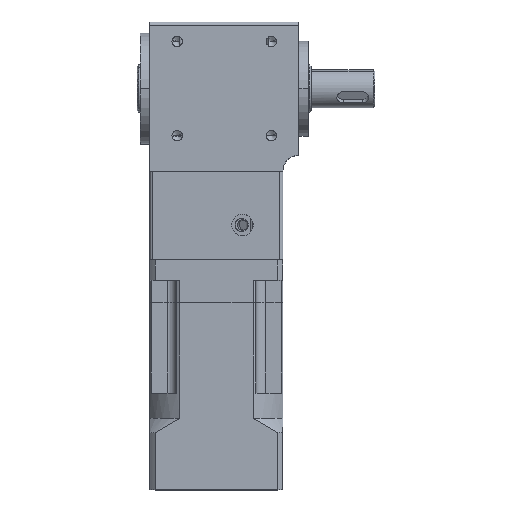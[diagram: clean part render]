
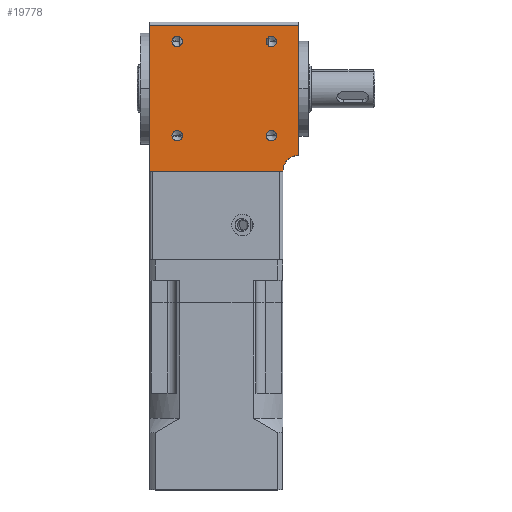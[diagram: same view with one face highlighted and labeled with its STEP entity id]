
A CAD part, top view. The second image highlights one B-rep face of the part: STEP entity #19778.
In plain terms, the highlighted planar face has unit normal (0, 0, 1).
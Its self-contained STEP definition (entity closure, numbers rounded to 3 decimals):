
#142 = AXIS2_PLACEMENT_3D ( 'NONE', #33925, #17639, #1451 ) ;
#256 = ORIENTED_EDGE ( 'NONE', *, *, #466, .F. ) ;
#294 = LINE ( 'NONE', #10357, #14650 ) ;
#448 = CARTESIAN_POINT ( 'NONE',  ( 42.999, 17.349, 21. ) ) ;
#466 = EDGE_CURVE ( 'NONE', #8199, #31534, #2141, .T. ) ;
#524 = EDGE_LOOP ( 'NONE', ( #7987, #34413 ) ) ;
#852 = EDGE_CURVE ( 'NONE', #5462, #31341, #16927, .T. ) ;
#1010 = CARTESIAN_POINT ( 'NONE',  ( 45., -23.5, 21. ) ) ;
#1108 = AXIS2_PLACEMENT_3D ( 'NONE', #22347, #6147, #25079 ) ;
#1354 = EDGE_LOOP ( 'NONE', ( #3513, #33977, #24147, #9589, #256 ) ) ;
#1451 = DIRECTION ( 'NONE',  ( 1., 0., 0. ) ) ;
#1974 = EDGE_LOOP ( 'NONE', ( #25573, #21299 ) ) ;
#2071 = EDGE_CURVE ( 'NONE', #24723, #31206, #26644, .T. ) ;
#2141 = CIRCLE ( 'NONE', #32350, 5. ) ;
#2824 = CARTESIAN_POINT ( 'NONE',  ( 53., -23.5, 21. ) ) ;
#2986 = CARTESIAN_POINT ( 'NONE',  ( 3., -23.5, 21. ) ) ;
#3010 = ORIENTED_EDGE ( 'NONE', *, *, #31087, .F. ) ;
#3513 = ORIENTED_EDGE ( 'NONE', *, *, #33900, .F. ) ;
#3796 = FACE_BOUND ( 'NONE', #15048, .T. ) ;
#4043 = EDGE_CURVE ( 'NONE', #19540, #5705, #24406, .T. ) ;
#4451 = EDGE_CURVE ( 'NONE', #5976, #6155, #9544, .T. ) ;
#4461 = CARTESIAN_POINT ( 'NONE',  ( 10.001, -12.349, 21. ) ) ;
#4583 = DIRECTION ( 'NONE',  ( 0., 0., 1. ) ) ;
#4927 = CARTESIAN_POINT ( 'NONE',  ( 13.301, -12.349, 21. ) ) ;
#5264 = EDGE_LOOP ( 'NONE', ( #19691, #14229 ) ) ;
#5344 = DIRECTION ( 'NONE',  ( 0., 1., 0. ) ) ;
#5462 = VERTEX_POINT ( 'NONE', #26515 ) ;
#5666 = AXIS2_PLACEMENT_3D ( 'NONE', #28439, #12192, #31174 ) ;
#5705 = VERTEX_POINT ( 'NONE', #24930 ) ;
#5976 = VERTEX_POINT ( 'NONE', #21227 ) ;
#6147 = DIRECTION ( 'NONE',  ( 0., 0., 1. ) ) ;
#6155 = VERTEX_POINT ( 'NONE', #448 ) ;
#6569 = LINE ( 'NONE', #14826, #27362 ) ;
#7987 = ORIENTED_EDGE ( 'NONE', *, *, #29690, .F. ) ;
#8199 = VERTEX_POINT ( 'NONE', #22382 ) ;
#8213 = PLANE ( 'NONE',  #24287 ) ;
#9544 = CIRCLE ( 'NONE', #1108, 1.65 ) ;
#9589 = ORIENTED_EDGE ( 'NONE', *, *, #12411, .F. ) ;
#9652 = DIRECTION ( 'NONE',  ( 0., 0., 1. ) ) ;
#10303 = CARTESIAN_POINT ( 'NONE',  ( 41.349, 17.349, 21. ) ) ;
#10357 = CARTESIAN_POINT ( 'NONE',  ( 50., -23.5, 21. ) ) ;
#10401 = CIRCLE ( 'NONE', #17104, 1.65 ) ;
#10951 = DIRECTION ( 'NONE',  ( -1., 0., 0. ) ) ;
#10991 = FACE_BOUND ( 'NONE', #5264, .T. ) ;
#12122 = VERTEX_POINT ( 'NONE', #31091 ) ;
#12192 = DIRECTION ( 'NONE',  ( 0., 0., 1. ) ) ;
#12342 = CARTESIAN_POINT ( 'NONE',  ( 41.349, -12.349, 21. ) ) ;
#12411 = EDGE_CURVE ( 'NONE', #31534, #12444, #16773, .T. ) ;
#12444 = VERTEX_POINT ( 'NONE', #2986 ) ;
#12814 = CARTESIAN_POINT ( 'NONE',  ( 50., -23.5, 21. ) ) ;
#13042 = DIRECTION ( 'NONE',  ( 1., 0., 0. ) ) ;
#13066 = LINE ( 'NONE', #29773, #19390 ) ;
#14229 = ORIENTED_EDGE ( 'NONE', *, *, #2071, .F. ) ;
#14253 = CARTESIAN_POINT ( 'NONE',  ( 11.651, 17.349, 21. ) ) ;
#14650 = VECTOR ( 'NONE', #26613, 1000. ) ;
#14826 = CARTESIAN_POINT ( 'NONE',  ( 53., 22.5, 21. ) ) ;
#15048 = EDGE_LOOP ( 'NONE', ( #3010, #34134 ) ) ;
#15074 = DIRECTION ( 'NONE',  ( 1., 0., 0. ) ) ;
#15554 = DIRECTION ( 'NONE',  ( 1., 0., 0. ) ) ;
#16773 = LINE ( 'NONE', #30002, #30379 ) ;
#16927 = CIRCLE ( 'NONE', #142, 1.65 ) ;
#16967 = DIRECTION ( 'NONE',  ( 1., 0., 0. ) ) ;
#17104 = AXIS2_PLACEMENT_3D ( 'NONE', #14253, #33236, #16967 ) ;
#17533 = DIRECTION ( 'NONE',  ( -1., 0., 0. ) ) ;
#17639 = DIRECTION ( 'NONE',  ( 0., 0., 1. ) ) ;
#18197 = FACE_BOUND ( 'NONE', #524, .T. ) ;
#18761 = AXIS2_PLACEMENT_3D ( 'NONE', #12342, #31348, #15074 ) ;
#19004 = DIRECTION ( 'NONE',  ( 0., 0., -1. ) ) ;
#19057 = EDGE_CURVE ( 'NONE', #31206, #24723, #26293, .T. ) ;
#19390 = VECTOR ( 'NONE', #5344, 1000. ) ;
#19417 = CIRCLE ( 'NONE', #29556, 1.65 ) ;
#19540 = VERTEX_POINT ( 'NONE', #20046 ) ;
#19691 = ORIENTED_EDGE ( 'NONE', *, *, #19057, .F. ) ;
#19778 = ADVANCED_FACE ( 'NONE', ( #18197, #3796, #10991, #32648, #24533 ), #8213, .F. ) ;
#20046 = CARTESIAN_POINT ( 'NONE',  ( 39.699, -12.349, 21. ) ) ;
#20734 = EDGE_CURVE ( 'NONE', #12444, #28143, #13066, .T. ) ;
#20756 = CARTESIAN_POINT ( 'NONE',  ( 41.349, -12.349, 21. ) ) ;
#20969 = AXIS2_PLACEMENT_3D ( 'NONE', #25881, #9652, #28639 ) ;
#21227 = CARTESIAN_POINT ( 'NONE',  ( 39.699, 17.349, 21. ) ) ;
#21299 = ORIENTED_EDGE ( 'NONE', *, *, #35133, .F. ) ;
#21573 = CARTESIAN_POINT ( 'NONE',  ( 10.001, 17.349, 21. ) ) ;
#22347 = CARTESIAN_POINT ( 'NONE',  ( 41.349, 17.349, 21. ) ) ;
#22382 = CARTESIAN_POINT ( 'NONE',  ( 50., -18.5, 21. ) ) ;
#22957 = CARTESIAN_POINT ( 'NONE',  ( 3., 22.5, 21. ) ) ;
#23481 = DIRECTION ( 'NONE',  ( 1., 0., 0. ) ) ;
#23645 = EDGE_CURVE ( 'NONE', #12122, #28143, #6569, .T. ) ;
#24147 = ORIENTED_EDGE ( 'NONE', *, *, #20734, .F. ) ;
#24287 = AXIS2_PLACEMENT_3D ( 'NONE', #2824, #19004, #10951 ) ;
#24406 = CIRCLE ( 'NONE', #18761, 1.65 ) ;
#24533 = FACE_OUTER_BOUND ( 'NONE', #1354, .T. ) ;
#24723 = VERTEX_POINT ( 'NONE', #4461 ) ;
#24930 = CARTESIAN_POINT ( 'NONE',  ( 42.999, -12.349, 21. ) ) ;
#25079 = DIRECTION ( 'NONE',  ( 1., 0., 0. ) ) ;
#25573 = ORIENTED_EDGE ( 'NONE', *, *, #852, .F. ) ;
#25881 = CARTESIAN_POINT ( 'NONE',  ( 11.651, -12.349, 21. ) ) ;
#26293 = CIRCLE ( 'NONE', #5666, 1.65 ) ;
#26515 = CARTESIAN_POINT ( 'NONE',  ( 13.301, 17.349, 21. ) ) ;
#26613 = DIRECTION ( 'NONE',  ( 0., -1., 0. ) ) ;
#26644 = CIRCLE ( 'NONE', #20969, 1.65 ) ;
#27362 = VECTOR ( 'NONE', #17533, 1000. ) ;
#28143 = VERTEX_POINT ( 'NONE', #22957 ) ;
#28439 = CARTESIAN_POINT ( 'NONE',  ( 11.651, -12.349, 21. ) ) ;
#28611 = AXIS2_PLACEMENT_3D ( 'NONE', #10303, #29298, #13042 ) ;
#28639 = DIRECTION ( 'NONE',  ( 1., 0., 0. ) ) ;
#29298 = DIRECTION ( 'NONE',  ( 0., 0., 1. ) ) ;
#29556 = AXIS2_PLACEMENT_3D ( 'NONE', #20756, #4583, #23481 ) ;
#29690 = EDGE_CURVE ( 'NONE', #6155, #5976, #31408, .T. ) ;
#29773 = CARTESIAN_POINT ( 'NONE',  ( 3., -23.5, 21. ) ) ;
#30002 = CARTESIAN_POINT ( 'NONE',  ( 53., -23.5, 21. ) ) ;
#30379 = VECTOR ( 'NONE', #32720, 1000. ) ;
#31087 = EDGE_CURVE ( 'NONE', #5705, #19540, #19417, .T. ) ;
#31091 = CARTESIAN_POINT ( 'NONE',  ( 50., 22.5, 21. ) ) ;
#31174 = DIRECTION ( 'NONE',  ( 1., 0., 0. ) ) ;
#31206 = VERTEX_POINT ( 'NONE', #4927 ) ;
#31341 = VERTEX_POINT ( 'NONE', #21573 ) ;
#31348 = DIRECTION ( 'NONE',  ( 0., 0., 1. ) ) ;
#31408 = CIRCLE ( 'NONE', #28611, 1.65 ) ;
#31534 = VERTEX_POINT ( 'NONE', #1010 ) ;
#31811 = DIRECTION ( 'NONE',  ( 0., 0., 1. ) ) ;
#32350 = AXIS2_PLACEMENT_3D ( 'NONE', #12814, #31811, #15554 ) ;
#32648 = FACE_BOUND ( 'NONE', #1974, .T. ) ;
#32720 = DIRECTION ( 'NONE',  ( -1., 0., 0. ) ) ;
#33236 = DIRECTION ( 'NONE',  ( 0., 0., 1. ) ) ;
#33900 = EDGE_CURVE ( 'NONE', #12122, #8199, #294, .T. ) ;
#33925 = CARTESIAN_POINT ( 'NONE',  ( 11.651, 17.349, 21. ) ) ;
#33977 = ORIENTED_EDGE ( 'NONE', *, *, #23645, .T. ) ;
#34134 = ORIENTED_EDGE ( 'NONE', *, *, #4043, .F. ) ;
#34413 = ORIENTED_EDGE ( 'NONE', *, *, #4451, .F. ) ;
#35133 = EDGE_CURVE ( 'NONE', #31341, #5462, #10401, .T. ) ;
